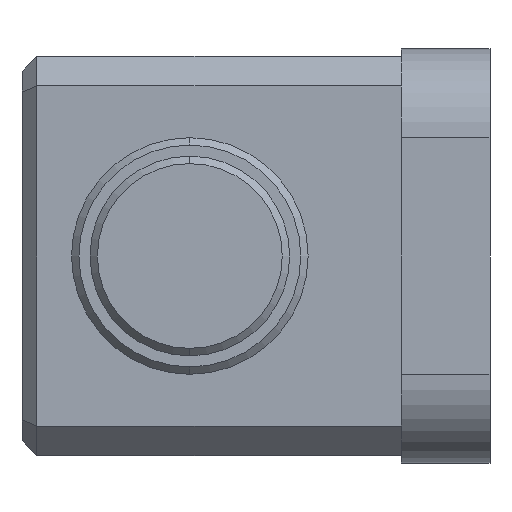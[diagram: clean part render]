
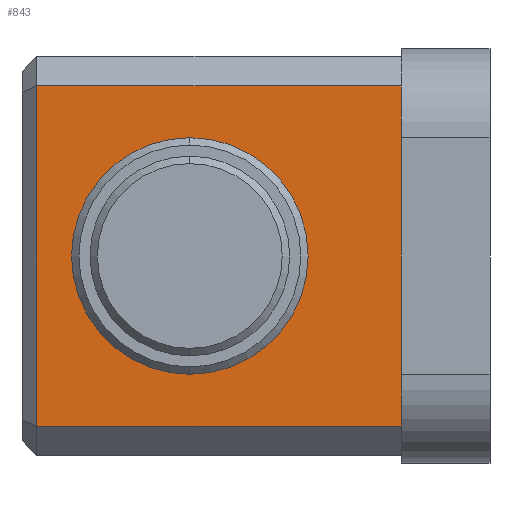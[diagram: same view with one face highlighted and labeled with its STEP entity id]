
A CAD part, left-side view. The second image highlights one B-rep face of the part: STEP entity #843.
In plain terms, the highlighted planar face has unit normal (-1, 0, 0).
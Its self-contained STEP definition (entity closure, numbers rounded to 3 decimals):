
#68 = FACE_BOUND ( 'NONE', #1950, .T. ) ;
#106 = CARTESIAN_POINT ( 'NONE',  ( -7.5, 12.2, -11.5 ) ) ;
#142 = DIRECTION ( 'NONE',  ( 1., 0., 0. ) ) ;
#225 = EDGE_CURVE ( 'NONE', #1258, #721, #898, .T. ) ;
#324 = EDGE_CURVE ( 'NONE', #2408, #1843, #1559, .T. ) ;
#398 = ORIENTED_EDGE ( 'NONE', *, *, #2009, .T. ) ;
#522 = DIRECTION ( 'NONE',  ( 0., 0., -1. ) ) ;
#551 = CARTESIAN_POINT ( 'NONE',  ( -7.5, 36.85, -11.5 ) ) ;
#556 = DIRECTION ( 'NONE',  ( 0., 1., 0. ) ) ;
#569 = AXIS2_PLACEMENT_3D ( 'NONE', #701, #2242, #2384 ) ;
#578 = CARTESIAN_POINT ( 'NONE',  ( -7.5, 26.5, -8. ) ) ;
#603 = DIRECTION ( 'NONE',  ( 0., 0., 1. ) ) ;
#654 = AXIS2_PLACEMENT_3D ( 'NONE', #2353, #786, #603 ) ;
#701 = CARTESIAN_POINT ( 'NONE',  ( -7.5, 37.85, 13.5 ) ) ;
#719 = EDGE_CURVE ( 'NONE', #1983, #1081, #2255, .T. ) ;
#721 = VERTEX_POINT ( 'NONE', #106 ) ;
#724 = VECTOR ( 'NONE', #556, 1000. ) ;
#786 = DIRECTION ( 'NONE',  ( 1., 0., 0. ) ) ;
#843 = ADVANCED_FACE ( 'NONE', ( #68, #1848 ), #2231, .T. ) ;
#857 = ORIENTED_EDGE ( 'NONE', *, *, #1448, .T. ) ;
#898 = LINE ( 'NONE', #1652, #1413 ) ;
#1026 = ORIENTED_EDGE ( 'NONE', *, *, #2287, .F. ) ;
#1052 = VECTOR ( 'NONE', #522, 1000. ) ;
#1078 = DIRECTION ( 'NONE',  ( 0., -1., 0. ) ) ;
#1081 = VERTEX_POINT ( 'NONE', #1834 ) ;
#1209 = LINE ( 'NONE', #2372, #2134 ) ;
#1258 = VERTEX_POINT ( 'NONE', #2113 ) ;
#1272 = CARTESIAN_POINT ( 'NONE',  ( -7.5, 12.2, 11.5 ) ) ;
#1286 = ORIENTED_EDGE ( 'NONE', *, *, #225, .T. ) ;
#1413 = VECTOR ( 'NONE', #1078, 1000. ) ;
#1448 = EDGE_CURVE ( 'NONE', #1843, #1258, #2253, .T. ) ;
#1450 = ORIENTED_EDGE ( 'NONE', *, *, #324, .T. ) ;
#1472 = DIRECTION ( 'NONE',  ( 0., 0., 1. ) ) ;
#1494 = AXIS2_PLACEMENT_3D ( 'NONE', #1849, #142, #1472 ) ;
#1559 = LINE ( 'NONE', #1717, #724 ) ;
#1652 = CARTESIAN_POINT ( 'NONE',  ( -7.5, 12.2, -11.5 ) ) ;
#1670 = EDGE_LOOP ( 'NONE', ( #1450, #857, #1286, #1026 ) ) ;
#1717 = CARTESIAN_POINT ( 'NONE',  ( -7.5, 37.85, 11.5 ) ) ;
#1727 = ORIENTED_EDGE ( 'NONE', *, *, #719, .T. ) ;
#1834 = CARTESIAN_POINT ( 'NONE',  ( -7.5, 26.5, 8. ) ) ;
#1843 = VERTEX_POINT ( 'NONE', #2082 ) ;
#1848 = FACE_OUTER_BOUND ( 'NONE', #1670, .T. ) ;
#1849 = CARTESIAN_POINT ( 'NONE',  ( -7.5, 26.5, 0. ) ) ;
#1950 = EDGE_LOOP ( 'NONE', ( #398, #1727 ) ) ;
#1983 = VERTEX_POINT ( 'NONE', #578 ) ;
#2009 = EDGE_CURVE ( 'NONE', #1081, #1983, #2268, .T. ) ;
#2082 = CARTESIAN_POINT ( 'NONE',  ( -7.5, 36.85, 11.5 ) ) ;
#2113 = CARTESIAN_POINT ( 'NONE',  ( -7.5, 36.85, -11.5 ) ) ;
#2134 = VECTOR ( 'NONE', #2391, 1000. ) ;
#2231 = PLANE ( 'NONE',  #569 ) ;
#2242 = DIRECTION ( 'NONE',  ( -1., 0., 0. ) ) ;
#2253 = LINE ( 'NONE', #551, #1052 ) ;
#2255 = CIRCLE ( 'NONE', #1494, 8. ) ;
#2268 = CIRCLE ( 'NONE', #654, 8. ) ;
#2287 = EDGE_CURVE ( 'NONE', #2408, #721, #1209, .T. ) ;
#2353 = CARTESIAN_POINT ( 'NONE',  ( -7.5, 26.5, 0. ) ) ;
#2372 = CARTESIAN_POINT ( 'NONE',  ( -7.5, 12.2, -13.5 ) ) ;
#2384 = DIRECTION ( 'NONE',  ( 0., 0., 1. ) ) ;
#2391 = DIRECTION ( 'NONE',  ( 0., 0., -1. ) ) ;
#2408 = VERTEX_POINT ( 'NONE', #1272 ) ;
